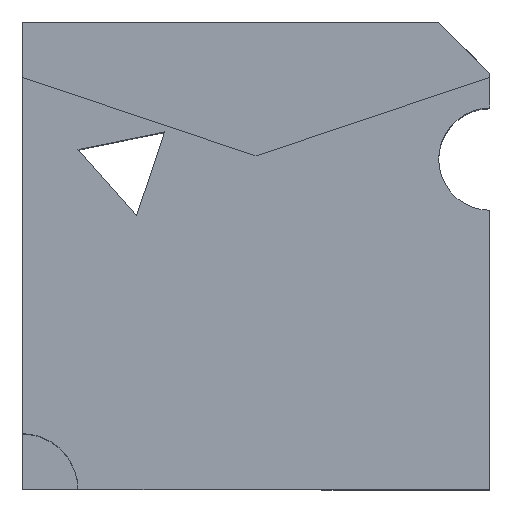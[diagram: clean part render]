
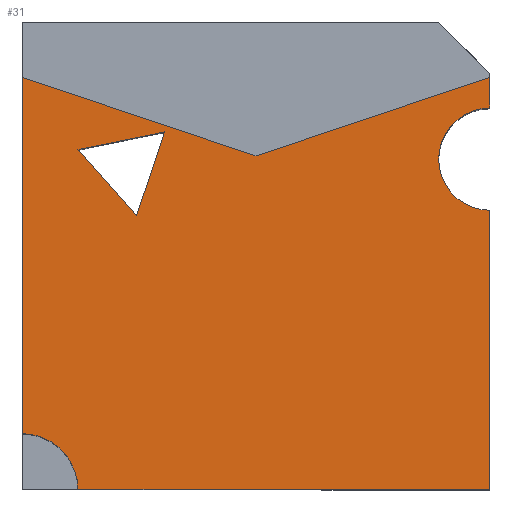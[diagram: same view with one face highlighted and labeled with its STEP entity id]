
A CAD part, top view. The second image highlights one B-rep face of the part: STEP entity #31.
In plain terms, the highlighted planar face has unit normal (0, 0, 1).
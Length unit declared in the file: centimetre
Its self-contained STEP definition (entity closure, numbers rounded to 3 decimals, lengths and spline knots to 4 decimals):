
#31 = ADVANCED_FACE ( 'NONE', ( #70, #158 ), #489, .T. ) ;
#32 = CIRCLE ( 'NONE', #765, 109.2782 ) ;
#41 = CARTESIAN_POINT ( 'NONE',  ( 304.5101, 764.3055, 1000. ) ) ;
#43 = DIRECTION ( 'NONE',  ( 1., 0., 0. ) ) ;
#54 = VERTEX_POINT ( 'NONE', #760 ) ;
#55 = EDGE_CURVE ( 'NONE', #476, #425, #672, .T. ) ;
#66 = CARTESIAN_POINT ( 'NONE',  ( 304.5101, 764.3055, 1000. ) ) ;
#70 = FACE_BOUND ( 'NONE', #413, .T. ) ;
#72 = VECTOR ( 'NONE', #464, 100. ) ;
#109 = CIRCLE ( 'NONE', #418, 119.0151 ) ;
#118 = VERTEX_POINT ( 'NONE', #913 ) ;
#143 = DIRECTION ( 'NONE',  ( 1., 0., 0. ) ) ;
#151 = LINE ( 'NONE', #636, #569 ) ;
#157 = VECTOR ( 'NONE', #768, 100. ) ;
#158 = FACE_OUTER_BOUND ( 'NONE', #635, .T. ) ;
#161 = VECTOR ( 'NONE', #639, 100. ) ;
#164 = VERTEX_POINT ( 'NONE', #358 ) ;
#170 = EDGE_CURVE ( 'NONE', #164, #680, #677, .T. ) ;
#175 = ORIENTED_EDGE ( 'NONE', *, *, #170, .F. ) ;
#199 = CARTESIAN_POINT ( 'NONE',  ( 0., 0., 1000. ) ) ;
#209 = EDGE_CURVE ( 'NONE', #118, #737, #781, .T. ) ;
#230 = DIRECTION ( 'NONE',  ( 0.663, -0.749, 0. ) ) ;
#246 = ORIENTED_EDGE ( 'NONE', *, *, #700, .T. ) ;
#276 = ORIENTED_EDGE ( 'NONE', *, *, #55, .F. ) ;
#284 = VERTEX_POINT ( 'NONE', #1040 ) ;
#302 = CARTESIAN_POINT ( 'NONE',  ( 1000., 815.4661, 1000. ) ) ;
#303 = VERTEX_POINT ( 'NONE', #302 ) ;
#304 = EDGE_CURVE ( 'NONE', #164, #54, #789, .T. ) ;
#310 = LINE ( 'NONE', #963, #689 ) ;
#321 = CARTESIAN_POINT ( 'NONE',  ( 0., 0., 1000. ) ) ;
#339 = VECTOR ( 'NONE', #1049, 100. ) ;
#348 = CARTESIAN_POINT ( 'NONE',  ( 1000., 596.9098, 1000. ) ) ;
#351 = ORIENTED_EDGE ( 'NONE', *, *, #1012, .F. ) ;
#358 = CARTESIAN_POINT ( 'NONE',  ( 0., 881.024, 1000. ) ) ;
#394 = DIRECTION ( 'NONE',  ( -0.98, -0.2, 0. ) ) ;
#396 = EDGE_CURVE ( 'NONE', #425, #284, #713, .T. ) ;
#400 = EDGE_CURVE ( 'NONE', #284, #476, #310, .T. ) ;
#402 = VECTOR ( 'NONE', #43, 100. ) ;
#413 = EDGE_LOOP ( 'NONE', ( #414, #904, #276 ) ) ;
#414 = ORIENTED_EDGE ( 'NONE', *, *, #400, .F. ) ;
#418 = AXIS2_PLACEMENT_3D ( 'NONE', #321, #1043, #143 ) ;
#425 = VERTEX_POINT ( 'NONE', #41 ) ;
#460 = DIRECTION ( 'NONE',  ( 1., 0., 0. ) ) ;
#464 = DIRECTION ( 'NONE',  ( 0., -1., 0. ) ) ;
#476 = VERTEX_POINT ( 'NONE', #522 ) ;
#489 = PLANE ( 'NONE',  #911 ) ;
#502 = ORIENTED_EDGE ( 'NONE', *, *, #619, .F. ) ;
#522 = CARTESIAN_POINT ( 'NONE',  ( 244.5866, 585.0688, 1000. ) ) ;
#525 = ORIENTED_EDGE ( 'NONE', *, *, #595, .F. ) ;
#536 = LINE ( 'NONE', #1036, #339 ) ;
#569 = VECTOR ( 'NONE', #991, 100. ) ;
#580 = CARTESIAN_POINT ( 'NONE',  ( 500., 713.2826, 1000. ) ) ;
#595 = EDGE_CURVE ( 'NONE', #680, #845, #151, .T. ) ;
#619 = EDGE_CURVE ( 'NONE', #118, #54, #109, .T. ) ;
#624 = CARTESIAN_POINT ( 'NONE',  ( 1000., 706.188, 1000. ) ) ;
#627 = CARTESIAN_POINT ( 'NONE',  ( 0., 1000., 1000. ) ) ;
#635 = EDGE_LOOP ( 'NONE', ( #525, #175, #944, #502, #738, #851, #351, #246 ) ) ;
#636 = CARTESIAN_POINT ( 'NONE',  ( 1000., 881.024, 1000. ) ) ;
#639 = DIRECTION ( 'NONE',  ( 0., 1., 0. ) ) ;
#647 = VECTOR ( 'NONE', #1008, 100. ) ;
#654 = CARTESIAN_POINT ( 'NONE',  ( 0., 0., 1000. ) ) ;
#672 = LINE ( 'NONE', #1017, #647 ) ;
#673 = CARTESIAN_POINT ( 'NONE',  ( 1000., 881.024, 1000. ) ) ;
#677 = LINE ( 'NONE', #847, #157 ) ;
#680 = VERTEX_POINT ( 'NONE', #580 ) ;
#689 = VECTOR ( 'NONE', #230, 100. ) ;
#700 = EDGE_CURVE ( 'NONE', #303, #845, #722, .T. ) ;
#713 = LINE ( 'NONE', #66, #739 ) ;
#722 = LINE ( 'NONE', #1059, #161 ) ;
#737 = VERTEX_POINT ( 'NONE', #1005 ) ;
#738 = ORIENTED_EDGE ( 'NONE', *, *, #209, .T. ) ;
#739 = VECTOR ( 'NONE', #394, 100. ) ;
#760 = CARTESIAN_POINT ( 'NONE',  ( 0., 119.0151, 1000. ) ) ;
#765 = AXIS2_PLACEMENT_3D ( 'NONE', #624, #1060, #460 ) ;
#768 = DIRECTION ( 'NONE',  ( 0.948, -0.318, 0. ) ) ;
#774 = VERTEX_POINT ( 'NONE', #348 ) ;
#781 = LINE ( 'NONE', #199, #402 ) ;
#789 = LINE ( 'NONE', #627, #72 ) ;
#813 = DIRECTION ( 'NONE',  ( 0., 0., 1. ) ) ;
#845 = VERTEX_POINT ( 'NONE', #673 ) ;
#847 = CARTESIAN_POINT ( 'NONE',  ( 500., 713.2826, 1000. ) ) ;
#851 = ORIENTED_EDGE ( 'NONE', *, *, #1044, .T. ) ;
#904 = ORIENTED_EDGE ( 'NONE', *, *, #396, .F. ) ;
#911 = AXIS2_PLACEMENT_3D ( 'NONE', #654, #813, #990 ) ;
#913 = CARTESIAN_POINT ( 'NONE',  ( 119.0151, 0., 1000. ) ) ;
#944 = ORIENTED_EDGE ( 'NONE', *, *, #304, .T. ) ;
#963 = CARTESIAN_POINT ( 'NONE',  ( 119.3248, 726.5824, 1000. ) ) ;
#990 = DIRECTION ( 'NONE',  ( 1., 0., 0. ) ) ;
#991 = DIRECTION ( 'NONE',  ( 0.948, 0.318, 0. ) ) ;
#1005 = CARTESIAN_POINT ( 'NONE',  ( 1000., 0., 1000. ) ) ;
#1008 = DIRECTION ( 'NONE',  ( 0.317, 0.948, 0. ) ) ;
#1012 = EDGE_CURVE ( 'NONE', #303, #774, #32, .T. ) ;
#1017 = CARTESIAN_POINT ( 'NONE',  ( 244.5866, 585.0688, 1000. ) ) ;
#1036 = CARTESIAN_POINT ( 'NONE',  ( 1000., 1000., 1000. ) ) ;
#1040 = CARTESIAN_POINT ( 'NONE',  ( 119.3248, 726.5824, 1000. ) ) ;
#1043 = DIRECTION ( 'NONE',  ( 0., 0., 1. ) ) ;
#1044 = EDGE_CURVE ( 'NONE', #737, #774, #536, .T. ) ;
#1049 = DIRECTION ( 'NONE',  ( 0., 1., 0. ) ) ;
#1059 = CARTESIAN_POINT ( 'NONE',  ( 1000., 1000., 1000. ) ) ;
#1060 = DIRECTION ( 'NONE',  ( 0., 0., 1. ) ) ;
